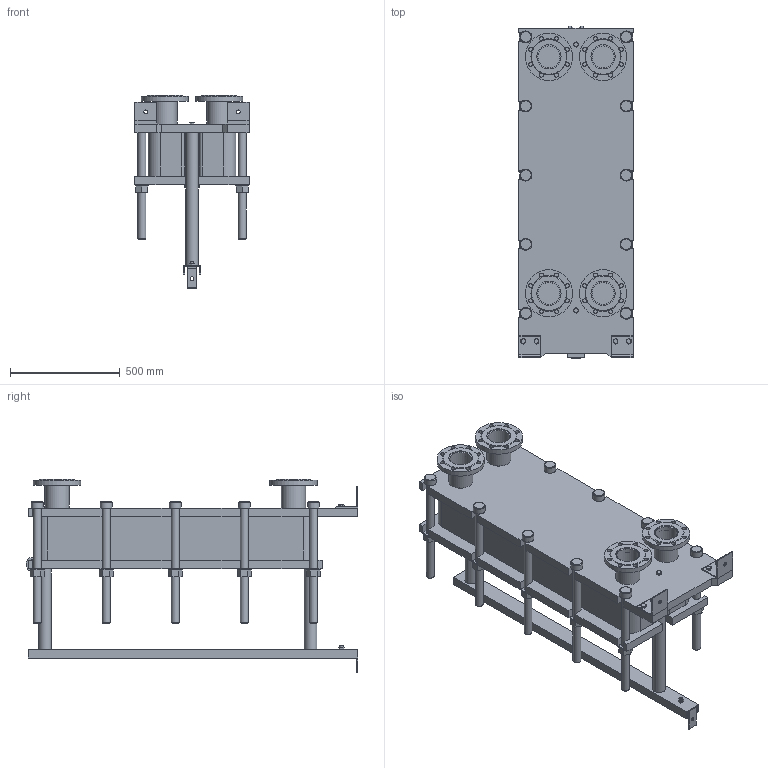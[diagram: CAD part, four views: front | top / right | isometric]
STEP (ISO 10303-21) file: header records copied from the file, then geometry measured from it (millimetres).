
FILE_DESCRIPTION(/* description */ (''),/* implementation_level */ '2;1');
FILE_NAME(/* name */ 'C:\Users\zhuro\Desktop\ENCO\TO\ЭН-04\ЭН-0,5-04-57-1.stp',/* time_stamp */ '2022-06-06T10:49:16+03:00',/* author */ ('zhuro'),/* organization */ (''),/* preprocessor_version */ 'ST-DEVELOPER v18.1',/* originating_system */ 'Autodesk Inventor 2022',/* authorisation */ '');
FILE_SCHEMA (('AUTOMOTIVE_DESIGN { 1 0 10303 214 3 1 1 }'));
Length unit declared in the file: millimetre
Products named in the file (1): ЭН-0,5-04-57-1
Bounding box: 520 x 1510 x 878.5 mm (x, y, z)
Volume: 167168121.1 mm3; surface area: 7409687.9 mm2
Topology: 45 solids, 45 shells, 668 faces, 1611 edges, 1048 vertices
Faces by surface type: plane 457, cylinder 166, cone 39, torus 6
Full cylindrical faces by diameter (mm): 8 x4, 10 x2, 16 x8, 18 x35, 36 x25, 40 x2, 42 x1, 45 x4, 54 x10, 57 x2, 60 x10, 68 x2, 100 x4, 110 x8, 215 x4
Entity records: 23607 total; most frequent: CARTESIAN_POINT 7348, DIRECTION 3371, ORIENTED_EDGE 3142, EDGE_CURVE 1571, AXIS2_PLACEMENT_3D 1199, VERTEX_POINT 1044, LINE 973, VECTOR 973
